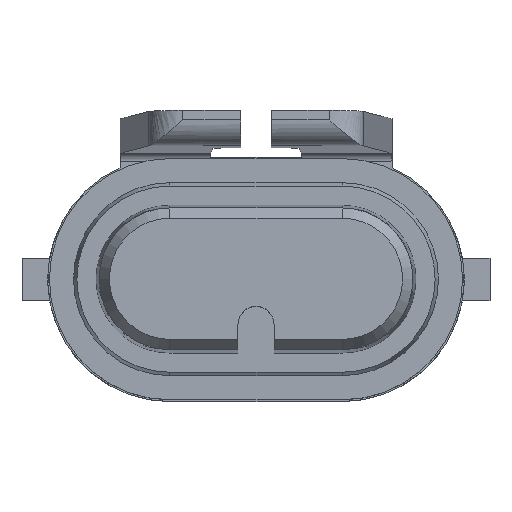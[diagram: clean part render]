
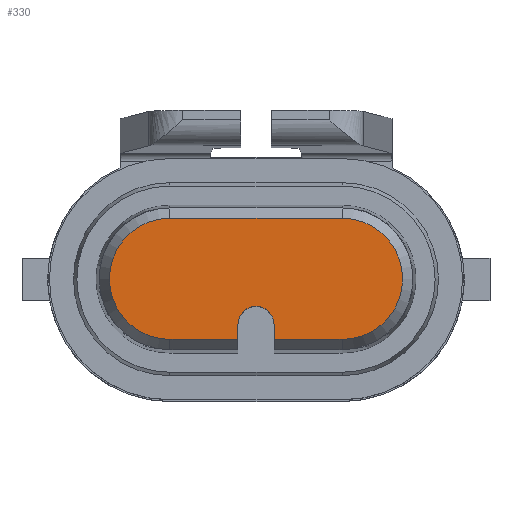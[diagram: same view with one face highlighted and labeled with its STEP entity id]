
A CAD part, top view. The second image highlights one B-rep face of the part: STEP entity #330.
In plain terms, the highlighted planar face has unit normal (0, 0, 1).
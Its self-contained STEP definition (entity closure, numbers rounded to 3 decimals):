
#238=FACE_OUTER_BOUND('',#502,.T.);
#330=ADVANCED_FACE('',(#238),#399,.T.);
#399=PLANE('',#1931);
#502=EDGE_LOOP('',(#992,#993,#994,#995,#996,#997,#998,#999));
#552=CIRCLE('',#1924,3.523);
#553=CIRCLE('',#1929,3.523);
#554=CIRCLE('',#1930,1.05);
#992=ORIENTED_EDGE('',*,*,#1414,.T.);
#993=ORIENTED_EDGE('',*,*,#1422,.T.);
#994=ORIENTED_EDGE('',*,*,#1418,.T.);
#995=ORIENTED_EDGE('',*,*,#1423,.T.);
#996=ORIENTED_EDGE('',*,*,#1424,.T.);
#997=ORIENTED_EDGE('',*,*,#1425,.F.);
#998=ORIENTED_EDGE('',*,*,#1416,.T.);
#999=ORIENTED_EDGE('',*,*,#1410,.T.);
#1182=VERTEX_POINT('',#2934);
#1183=VERTEX_POINT('',#2936);
#1185=VERTEX_POINT('',#2942);
#1187=VERTEX_POINT('',#2948);
#1188=VERTEX_POINT('',#2952);
#1189=VERTEX_POINT('',#2953);
#1192=VERTEX_POINT('',#2962);
#1193=VERTEX_POINT('',#2964);
#1410=EDGE_CURVE('',#1183,#1182,#552,.T.);
#1414=EDGE_CURVE('',#1182,#1185,#1594,.T.);
#1416=EDGE_CURVE('',#1187,#1183,#1596,.T.);
#1418=EDGE_CURVE('',#1188,#1189,#1598,.T.);
#1422=EDGE_CURVE('',#1185,#1188,#553,.T.);
#1423=EDGE_CURVE('',#1189,#1192,#1602,.T.);
#1424=EDGE_CURVE('',#1192,#1193,#554,.T.);
#1425=EDGE_CURVE('',#1187,#1193,#1603,.T.);
#1594=LINE('',#2943,#1773);
#1596=LINE('',#2947,#1775);
#1598=LINE('',#2951,#1777);
#1602=LINE('',#2961,#1781);
#1603=LINE('',#2965,#1782);
#1773=VECTOR('',#2373,1.);
#1775=VECTOR('',#2377,1.);
#1777=VECTOR('',#2381,1.);
#1781=VECTOR('',#2389,1.);
#1782=VECTOR('',#2392,1.);
#1924=AXIS2_PLACEMENT_3D('',#2935,#2366,#2367);
#1929=AXIS2_PLACEMENT_3D('',#2960,#2387,#2388);
#1930=AXIS2_PLACEMENT_3D('',#2963,#2390,#2391);
#1931=AXIS2_PLACEMENT_3D('',#2966,#2393,#2394);
#2366=DIRECTION('',(0.,0.,1.));
#2367=DIRECTION('',(0.,1.,0.));
#2373=DIRECTION('',(-1.,0.,0.));
#2377=DIRECTION('',(1.,0.,0.));
#2381=DIRECTION('',(1.,0.,0.));
#2387=DIRECTION('',(0.,0.,1.));
#2388=DIRECTION('',(0.,1.,0.));
#2389=DIRECTION('',(0.,1.,0.));
#2390=DIRECTION('',(0.,0.,-1.));
#2391=DIRECTION('',(0.,1.,0.));
#2392=DIRECTION('',(0.,1.,0.));
#2393=DIRECTION('',(0.,0.,1.));
#2394=DIRECTION('',(0.,1.,0.));
#2934=CARTESIAN_POINT('',(5.,3.523,10.35));
#2935=CARTESIAN_POINT('',(5.,0.,10.35));
#2936=CARTESIAN_POINT('',(5.,-3.523,10.35));
#2942=CARTESIAN_POINT('',(-5.,3.523,10.35));
#2943=CARTESIAN_POINT('',(-5.,3.523,10.35));
#2947=CARTESIAN_POINT('',(-5.,-3.523,10.35));
#2948=CARTESIAN_POINT('',(1.05,-3.523,10.35));
#2951=CARTESIAN_POINT('',(-5.,-3.523,10.35));
#2952=CARTESIAN_POINT('',(-5.,-3.523,10.35));
#2953=CARTESIAN_POINT('',(-1.05,-3.523,10.35));
#2960=CARTESIAN_POINT('',(-5.,0.,10.35));
#2961=CARTESIAN_POINT('',(-1.05,0.,10.35));
#2962=CARTESIAN_POINT('',(-1.05,-2.65,10.35));
#2963=CARTESIAN_POINT('',(0.,-2.65,10.35));
#2964=CARTESIAN_POINT('',(1.05,-2.65,10.35));
#2965=CARTESIAN_POINT('',(1.05,0.,10.35));
#2966=CARTESIAN_POINT('',(-5.,0.,10.35));
